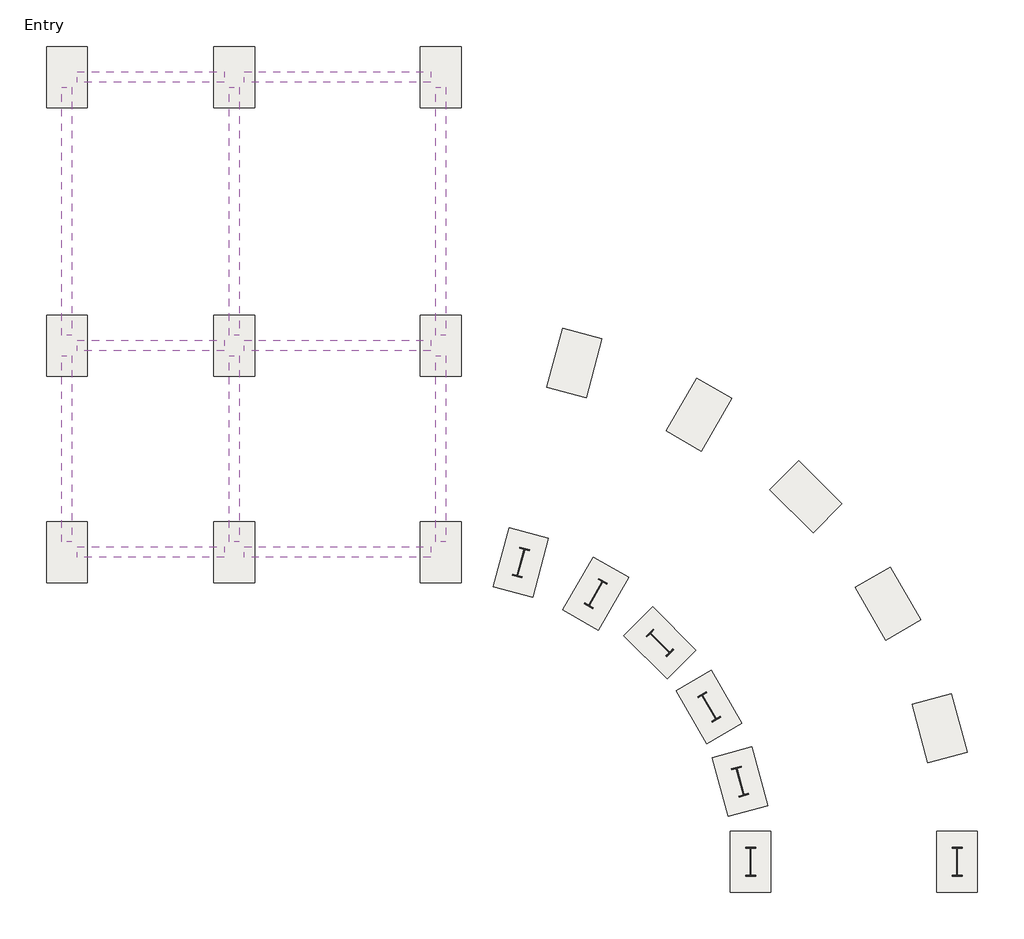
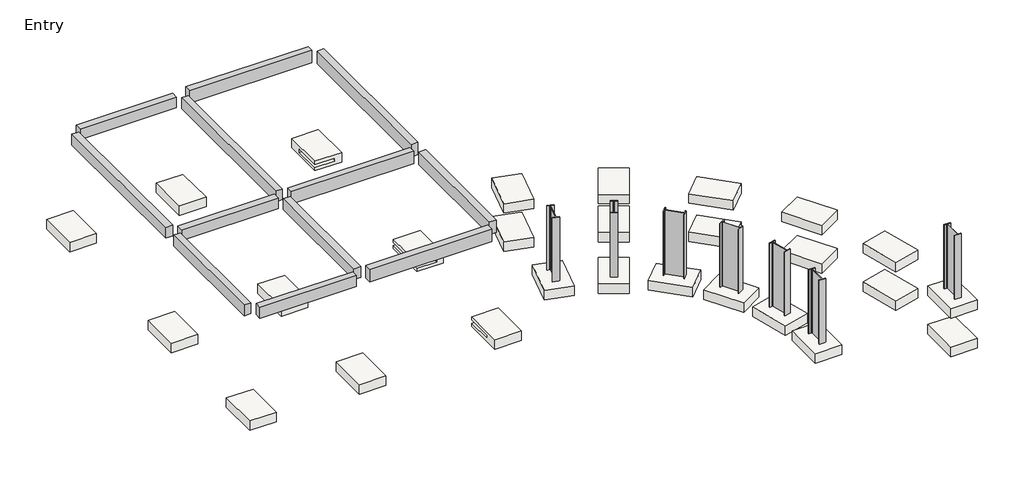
# One storey: 27 slabs, 12 beams, 7 columns.
"""IFC4 building model written with IfcOpenShell, lengths in millimetres."""

import ifcopenshell
import ifcopenshell.guid

model = None  # the IFC model being written
_history = None  # IfcOwnerHistory: only IFC2X3 demands one
_inside = {}  # id of a spatial element -> (the spatial element, [elements in it])
_under = {}  # id of a project, library or spatial element -> (it, [spatial elements below it])
_declared = {}  # id of a project -> (the project, [libraries it declares])
_typed = {}  # id of a type object -> (the type object, [elements of that type])
_made_of = {}  # id of a material, layer set ... -> (it, [elements and type objects made of it])


def new_model(schema):
    """Start an empty IFC model of exactly this schema.

    Asked for "IFC4X3", IfcOpenShell would pick the latest addendum, in which some entities
    have other attributes; the version numbers below select the first issue.
    IFC2X3 requires an IfcOwnerHistory on every rooted entity: one is made here for all.
    """
    global model, _history
    if schema == "IFC4X3":
        model = ifcopenshell.file(schema_version=(4, 3, 0, 0))
    else:
        model = ifcopenshell.file(schema=schema)
    _inside.clear()
    _under.clear()
    _declared.clear()
    _typed.clear()
    _made_of.clear()
    _history = None
    if model.schema == "IFC2X3":
        org = make("IfcOrganization", Name="unknown")
        user = make(
            "IfcPersonAndOrganization",
            ThePerson=make("IfcPerson", FamilyName="unknown"),
            TheOrganization=org,
        )
        app = make(
            "IfcApplication",
            ApplicationDeveloper=org,
            Version="unknown",
            ApplicationFullName="unknown",
            ApplicationIdentifier="unknown",
        )
        _history = make(
            "IfcOwnerHistory",
            OwningUser=user,
            OwningApplication=app,
            ChangeAction="ADDED",
            CreationDate=0,
        )
    return model


def make(cls, **values):
    """One entity of the class cls with the attributes given. An attribute that is None is left unset."""
    return model.create_entity(
        cls, **{name: value for name, value in values.items() if value is not None}
    )


def rooted(cls, **values):
    """An entity with a GlobalId (a new one), such as an element, a storey or a relation."""
    return make(cls, GlobalId=ifcopenshell.guid.new(), OwnerHistory=_history, **values)


def si_unit(unit_type, name, prefix=None):
    """IfcSIUnit, for example si_unit("LENGTHUNIT", "METRE", prefix="MILLI")."""
    return make("IfcSIUnit", UnitType=unit_type, Prefix=prefix, Name=name)


def assignment(units):
    """IfcUnitAssignment: the units of a project."""
    return None if units is None else make("IfcUnitAssignment", Units=units)


def point(xyz):
    """IfcCartesianPoint."""
    return None if xyz is None else make("IfcCartesianPoint", Coordinates=xyz)


def direction(xyz):
    """IfcDirection."""
    return None if xyz is None else make("IfcDirection", DirectionRatios=xyz)


def frame(location, z_axis=None, x_axis=None):
    """IfcAxis2Placement3D, a coordinate frame: its origin and axes. An axis left out is left unset."""
    return make(
        "IfcAxis2Placement3D",
        Location=point(location),
        Axis=direction(z_axis),
        RefDirection=direction(x_axis),
    )


def frame_2d(location, x_axis=None):
    """IfcAxis2Placement2D, a coordinate frame in the plane: its origin and x axis."""
    return make(
        "IfcAxis2Placement2D", Location=point(location), RefDirection=direction(x_axis)
    )


def origin():
    """The frame at (0, 0, 0) with its axes left unset."""
    return frame((0.0, 0.0, 0.0))


def origin_with_axes():
    """The frame at (0, 0, 0) with the z axis (0, 0, 1) and the x axis (1, 0, 0) written out."""
    return frame((0.0, 0.0, 0.0), z_axis=(0.0, 0.0, 1.0), x_axis=(1.0, 0.0, 0.0))


def place(relative_to, where):
    """IfcLocalPlacement: puts the frame where relative to a parent placement (None: the world)."""
    return make(
        "IfcLocalPlacement", PlacementRelTo=relative_to, RelativePlacement=where
    )


def context(
    kind, dimensions, precision=None, world=None, true_north=None, identifier=None
):
    """IfcGeometricRepresentationContext, for example the 3D "Model" context."""
    return make(
        "IfcGeometricRepresentationContext",
        ContextIdentifier=identifier,
        ContextType=kind,
        CoordinateSpaceDimension=dimensions,
        Precision=precision,
        WorldCoordinateSystem=world,
        TrueNorth=true_north,
    )


def project(units=None, contexts=None):
    """IfcProject with its units and contexts."""
    return rooted(
        "IfcProject",
        Name="project",
        RepresentationContexts=contexts,
        UnitsInContext=assignment(units),
    )


def spatial(cls, under=None, at=None, **own):
    """A site, building, storey or space (cls), placed at a placement, below another one or the project."""
    s = rooted(cls, ObjectPlacement=at, **own)
    if under is not None:
        _under.setdefault(under.id(), (under, []))[1].append(s)
    return s


def polyline(points):
    """IfcPolyline through the points."""
    return make("IfcPolyline", Points=[point(p) for p in points])


def circle_curve(where, radius):
    """IfcCircle in the frame where."""
    return make("IfcCircle", Position=where, Radius=radius)


def trimmed(basis, trim1, trim2, sense, master):
    """IfcTrimmedCurve: the piece of a basis curve between two trims."""
    return make(
        "IfcTrimmedCurve",
        BasisCurve=basis,
        Trim1=trim1,
        Trim2=trim2,
        SenseAgreement=sense,
        MasterRepresentation=master,
    )


def segment(curve, same_sense, transition):
    """IfcCompositeCurveSegment."""
    return make(
        "IfcCompositeCurveSegment",
        Transition=transition,
        SameSense=same_sense,
        ParentCurve=curve,
    )


def composite_curve(segments, self_intersect=None):
    """IfcCompositeCurve: segments joined end to end."""
    return make("IfcCompositeCurve", Segments=segments, SelfIntersect=self_intersect)


def outline(outer, holes=None, kind="AREA"):
    """IfcArbitraryClosedProfileDef: a profile drawn as a closed curve; with holes, ...WithVoids."""
    if holes is None:
        return make("IfcArbitraryClosedProfileDef", ProfileType=kind, OuterCurve=outer)
    return make(
        "IfcArbitraryProfileDefWithVoids",
        ProfileType=kind,
        OuterCurve=outer,
        InnerCurves=holes,
    )


def extrude(swept, where, along, depth):
    """IfcExtrudedAreaSolid: the profile swept, set in the frame where, extruded along a direction by depth."""
    return make(
        "IfcExtrudedAreaSolid",
        SweptArea=swept,
        Position=where,
        ExtrudedDirection=direction(along),
        Depth=depth,
    )


def faces_of(points, faces, orient=None, outer=None):
    """IfcFace entities. A face is a list of loops; a loop is a list of indices into points, from 0.

    orient and outer hold one flag for each loop. By default every Orientation is true, the
    first loop of a face is its IfcFaceOuterBound and the others are IfcFaceBound.
    """
    made = []
    for i, loops in enumerate(faces):
        bounds = []
        for j, loop in enumerate(loops):
            is_outer = j == 0 if outer is None else outer[i][j]
            bounds.append(
                make(
                    "IfcFaceOuterBound" if is_outer else "IfcFaceBound",
                    Bound=make("IfcPolyLoop", Polygon=[points[k] for k in loop]),
                    Orientation=True if orient is None else orient[i][j],
                )
            )
        made.append(make("IfcFace", Bounds=bounds))
    return made


def faceted_brep(points, faces, orient=None, outer=None, voids=None):
    """IfcFacetedBrep: a solid bounded by flat faces; with voids (closed shells), ...WithVoids."""
    shared = [point(p) for p in points]
    hull = make("IfcClosedShell", CfsFaces=faces_of(shared, faces, orient, outer))
    if voids is None:
        return make("IfcFacetedBrep", Outer=hull)
    return make(
        "IfcFacetedBrepWithVoids",
        Outer=hull,
        Voids=[
            make(cls, CfsFaces=faces_of(shared, fs, o, b)) for cls, fs, o, b in voids
        ],
    )


def shape(context_of_items, identifier, shape_type, items):
    """IfcShapeRepresentation: the items that make up one representation, for example the "Body"."""
    return make(
        "IfcShapeRepresentation",
        ContextOfItems=context_of_items,
        RepresentationIdentifier=identifier,
        RepresentationType=shape_type,
        Items=items,
    )


def source(mapping_origin, context_of_items, identifier, shape_type, items):
    """IfcRepresentationMap: a shape defined once, which mapped items show again and again."""
    return make(
        "IfcRepresentationMap",
        MappingOrigin=mapping_origin,
        MappedRepresentation=shape(context_of_items, identifier, shape_type, items),
    )


def transform(
    local_origin,
    x_axis=None,
    y_axis=None,
    z_axis=None,
    scale=None,
    scale2=None,
    scale3=None,
    uniform=True,
):
    """IfcCartesianTransformationOperator3D, or its non-uniform kind. x_axis, y_axis, z_axis: its Axis1, 2, 3."""
    if uniform:
        return make(
            "IfcCartesianTransformationOperator3D",
            Axis1=direction(x_axis),
            Axis2=direction(y_axis),
            LocalOrigin=point(local_origin),
            Scale=scale,
            Axis3=direction(z_axis),
        )
    return make(
        "IfcCartesianTransformationOperator3DnonUniform",
        Axis1=direction(x_axis),
        Axis2=direction(y_axis),
        LocalOrigin=point(local_origin),
        Scale=scale,
        Axis3=direction(z_axis),
        Scale2=scale2,
        Scale3=scale3,
    )


def mapped(mapping_source, mapping_target):
    """IfcMappedItem: shows the shape of a source again, moved by a transform."""
    return make(
        "IfcMappedItem", MappingSource=mapping_source, MappingTarget=mapping_target
    )


def made_of(thing, what):
    """Note that an element or type object is made of a material, layer set ...; save() writes the relation."""
    if what is not None:
        _made_of.setdefault(what.id(), (what, []))[1].append(thing)
    return thing


def element(
    cls,
    number,
    at=None,
    inside=None,
    cuts=None,
    type_object=None,
    material=None,
    context=None,
    identifier="Body",
    shape_type=None,
    held_by="IfcProductDefinitionShape",
    body=None,
    shapes=None,
    **own,
):
    """One element of the class cls, such as IfcWall. Its Tag is "e" and its number.

    at: its placement. inside: the storey or other place that contains it. cuts: it is an
    opening in that element (IfcRelVoidsElement). A single representation is given by context,
    identifier, shape_type and body (its items); several are given by shapes. held_by: the class
    of the entity that holds the representations. save() writes the other relations.
    """
    e = rooted(cls, Tag="e%d" % number, ObjectPlacement=at, **own)
    if body is not None:
        shapes = [shape(context, identifier, shape_type, body)]
    if shapes is not None:
        e.Representation = make(held_by, Representations=shapes)
    if inside is not None:
        _inside.setdefault(inside.id(), (inside, []))[1].append(e)
    if cuts is not None:
        rooted(
            "IfcRelVoidsElement", RelatingBuildingElement=cuts, RelatedOpeningElement=e
        )
    if type_object is not None:
        _typed.setdefault(type_object.id(), (type_object, []))[1].append(e)
    return made_of(e, material)


def aggregate(whole, parts):
    """IfcRelAggregates: a whole, such as a stair, and the parts it consists of."""
    return rooted("IfcRelAggregates", RelatingObject=whole, RelatedObjects=parts)


def save(model, path):
    """Write the relations noted so far, then the file.

    IfcRelAggregates (storeys below a building ...), IfcRelContainedInSpatialStructure (elements
    in a storey), IfcRelDefinesByType, IfcRelAssociatesMaterial and IfcRelDeclares: one each for
    every whole, place, type object, material and project.
    """
    for whole, parts in _under.values():
        aggregate(whole, parts)
    for where, things in _inside.values():
        rooted(
            "IfcRelContainedInSpatialStructure",
            RelatedElements=things,
            RelatingStructure=where,
        )
    for kind, things in _typed.values():
        rooted("IfcRelDefinesByType", RelatedObjects=things, RelatingType=kind)
    for what, things in _made_of.values():
        rooted("IfcRelAssociatesMaterial", RelatedObjects=things, RelatingMaterial=what)
    for by, libraries in _declared.values():
        rooted("IfcRelDeclares", RelatingContext=by, RelatedDefinitions=libraries)
    model.write(path)


def w840x251_1148a0b8(model_context):
    return source(origin(), model_context, "Body", "SweptSolid", [
        extrude(outline(composite_curve([segment(polyline([(146.0, 429.5), (146.0, 398.5), (31.5, 398.5)]), True, "CONTINUOUS"), segment(trimmed(circle_curve(frame_2d((31.5, 375.5)), 23.0), [point((31.5, 398.5))], [point((8.5, 375.5))], True, "CARTESIAN"), True, "CONTINUOUS"), segment(polyline([(8.5, 375.5), (8.5, -375.5)]), True, "CONTINUOUS"), segment(trimmed(circle_curve(frame_2d((31.5, -375.5)), 23.0), [point((8.5, -375.5))], [point((31.5, -398.5))], True, "CARTESIAN"), True, "CONTINUOUS"), segment(polyline([(31.5, -398.5), (146.0, -398.5), (146.0, -429.5), (-146.0, -429.5), (-146.0, -398.5), (-31.5, -398.5)]), True, "CONTINUOUS"), segment(trimmed(circle_curve(frame_2d((-31.5, -375.5)), 23.0), [point((-31.5, -398.5))], [point((-8.5, -375.5))], True, "CARTESIAN"), True, "CONTINUOUS"), segment(polyline([(-8.5, -375.5), (-8.5, 375.5)]), True, "CONTINUOUS"), segment(trimmed(circle_curve(frame_2d((-31.5, 375.5)), 23.0), [point((-8.5, 375.5))], [point((-31.5, 398.5))], True, "CARTESIAN"), True, "CONTINUOUS"), segment(polyline([(-31.5, 398.5), (-146.0, 398.5), (-146.0, 429.5), (146.0, 429.5)]), True, "CONTINUOUS")], self_intersect=False)), origin_with_axes(), (0.0, 0.0, 1.0), 3048.0),
    ])


def m_footing_rectangular_1800_x_1200_x_450mm_16ba7ea5(model_context):
    return source(origin(), model_context, "Body", "SweptSolid", [
        extrude(outline(polyline([(600.0, 900.0), (600.0, -900.0), (-600.0, -900.0), (-600.0, 900.0), (600.0, 900.0)])), frame((0.0, 0.0, -450.0), z_axis=(0.0, 0.0, 1.0), x_axis=(1.0, 0.0, 0.0)), (0.0, 0.0, 1.0), 450.0),
    ])


model = new_model("IFC4")

# Units and contexts
model_context = context("Model", 3, world=origin())
ifc_project = project(units=[si_unit("LENGTHUNIT", "METRE", prefix="MILLI")], contexts=[model_context])

# Site, building, storey
site = spatial("IfcSite", under=ifc_project)
building = spatial("IfcBuilding", under=site)
storey = spatial("IfcBuildingStorey", under=building, Name="Entry", Elevation=0.0)

# Beams
placement = place(None, origin())
element("IfcBeam", 1, ObjectType="M_Concrete-Rectangular Beam : 300 x 600mm", at=placement, inside=storey, context=model_context, shape_type="SweptSolid", body=[
    extrude(outline(polyline([(-16304.9035319, 4112.1636035), (-16304.9035319, 4412.1636035), (-10808.9035319, 4412.1636035), (-10808.9035319, 4112.1636035), (-16304.9035319, 4112.1636035)])), frame((0.0, 0.0, 2448.0), z_axis=(0.0, 0.0, 1.0), x_axis=(1.0, 0.0, 0.0)), (0.0, 0.0, 1.0), 600.0),
])
element("IfcBeam", 2, ObjectType="M_Concrete-Rectangular Beam : 300 x 600mm", at=placement, inside=storey, context=model_context, shape_type="SweptSolid", body=[
    extrude(outline(polyline([(-21244.300634, 4112.1636035), (-21244.300634, 4412.1636035), (-16904.9035319, 4412.1636035), (-16904.9035319, 4112.1636035), (-21244.300634, 4112.1636035)])), frame((0.0, 0.0, 2448.0), z_axis=(0.0, 0.0, 1.0), x_axis=(1.0, 0.0, 0.0)), (0.0, 0.0, 1.0), 510.0),
])
element("IfcBeam", 3, ObjectType="M_Concrete-Rectangular Beam : 300 x 600mm", at=placement, inside=storey, context=model_context, shape_type="SweptSolid", body=[
    extrude(outline(polyline([(-16304.9035319, -3812.8363965), (-16304.9035319, -3512.8363965), (-10808.9035319, -3512.8363965), (-10808.9035319, -3812.8363965), (-16304.9035319, -3812.8363965)])), frame((0.0, 0.0, 2448.0), z_axis=(0.0, 0.0, 1.0), x_axis=(1.0, 0.0, 0.0)), (0.0, 0.0, 1.0), 600.0),
])
element("IfcBeam", 4, ObjectType="M_Concrete-Rectangular Beam : 300 x 600mm", at=placement, inside=storey, context=model_context, shape_type="SweptSolid", body=[
    extrude(outline(polyline([(-21244.300634, -3812.8363965), (-21244.300634, -3512.8363965), (-16904.9035319, -3512.8363965), (-16904.9035319, -3812.8363965), (-21244.300634, -3812.8363965)])), frame((0.0, 0.0, 2448.0), z_axis=(0.0, 0.0, 1.0), x_axis=(1.0, 0.0, 0.0)), (0.0, 0.0, 1.0), 510.0),
])
element("IfcBeam", 5, ObjectType="M_Concrete-Rectangular Beam : 300 x 600mm", at=placement, inside=storey, context=model_context, shape_type="SweptSolid", body=[
    extrude(outline(polyline([(-16304.9035319, -9908.8363965), (-16304.9035319, -9608.8363965), (-10808.9035319, -9608.8363965), (-10808.9035319, -9908.8363965), (-16304.9035319, -9908.8363965)])), frame((0.0, 0.0, 2448.0), z_axis=(0.0, 0.0, 1.0), x_axis=(1.0, 0.0, 0.0)), (0.0, 0.0, 1.0), 600.0),
])
element("IfcBeam", 6, ObjectType="M_Concrete-Rectangular Beam : 300 x 600mm", at=placement, inside=storey, context=model_context, shape_type="SweptSolid", body=[
    extrude(outline(polyline([(-21244.300634, -9908.8363965), (-21244.300634, -9608.8363965), (-16904.9035319, -9608.8363965), (-16904.9035319, -9908.8363965), (-21244.300634, -9908.8363965)])), frame((0.0, 0.0, 2448.0), z_axis=(0.0, 0.0, 1.0), x_axis=(1.0, 0.0, 0.0)), (0.0, 0.0, 1.0), 510.0),
])
element("IfcBeam", 7, ObjectType="M_Concrete-Rectangular Beam : 300 x 600mm", at=placement, inside=storey, context=model_context, shape_type="SweptSolid", body=[
    extrude(outline(polyline([(-21394.300634, -3362.8363965), (-21694.300634, -3362.8363965), (-21694.300634, 3962.1636035), (-21394.300634, 3962.1636035), (-21394.300634, -3362.8363965)])), frame((0.0, 0.0, 2448.0), z_axis=(0.0, 0.0, 1.0), x_axis=(1.0, 0.0, 0.0)), (0.0, 0.0, 1.0), 510.0),
])
element("IfcBeam", 8, ObjectType="M_Concrete-Rectangular Beam : 300 x 600mm", at=placement, inside=storey, context=model_context, shape_type="SweptSolid", body=[
    extrude(outline(polyline([(-21394.300634, -9458.8363965), (-21694.300634, -9458.8363965), (-21694.300634, -3962.8363965), (-21394.300634, -3962.8363965), (-21394.300634, -9458.8363965)])), frame((0.0, 0.0, 2448.0), z_axis=(0.0, 0.0, 1.0), x_axis=(1.0, 0.0, 0.0)), (0.0, 0.0, 1.0), 510.0),
])
element("IfcBeam", 9, ObjectType="M_Concrete-Rectangular Beam : 300 x 600mm", at=placement, inside=storey, context=model_context, shape_type="SweptSolid", body=[
    extrude(outline(polyline([(-16454.9035319, -9458.8363965), (-16754.9035319, -9458.8363965), (-16754.9035319, -3962.8363965), (-16454.9035319, -3962.8363965), (-16454.9035319, -9458.8363965)])), frame((0.0, 0.0, 2448.0), z_axis=(0.0, 0.0, 1.0), x_axis=(1.0, 0.0, 0.0)), (0.0, 0.0, 1.0), 510.0),
])
element("IfcBeam", 10, ObjectType="M_Concrete-Rectangular Beam : 300 x 600mm", at=placement, inside=storey, context=model_context, shape_type="SweptSolid", body=[
    extrude(outline(polyline([(-16454.9035319, -3362.8363965), (-16754.9035319, -3362.8363965), (-16754.9035319, 3962.1636035), (-16454.9035319, 3962.1636035), (-16454.9035319, -3362.8363965)])), frame((0.0, 0.0, 2448.0), z_axis=(0.0, 0.0, 1.0), x_axis=(1.0, 0.0, 0.0)), (0.0, 0.0, 1.0), 510.0),
])
element("IfcBeam", 11, ObjectType="M_Concrete-Rectangular Beam : 300 x 600mm", at=placement, inside=storey, context=model_context, shape_type="SweptSolid", body=[
    extrude(outline(polyline([(-10358.9035319, -9458.8363965), (-10658.9035319, -9458.8363965), (-10658.9035319, -3962.8363965), (-10358.9035319, -3962.8363965), (-10358.9035319, -9458.8363965)])), frame((0.0, 0.0, 2448.0), z_axis=(0.0, 0.0, 1.0), x_axis=(1.0, 0.0, 0.0)), (0.0, 0.0, 1.0), 600.0),
])
element("IfcBeam", 12, ObjectType="M_Concrete-Rectangular Beam : 300 x 600mm", at=placement, inside=storey, context=model_context, shape_type="SweptSolid", body=[
    extrude(outline(polyline([(-10358.9035319, -3362.8363965), (-10658.9035319, -3362.8363965), (-10658.9035319, 3962.1636035), (-10358.9035319, 3962.1636035), (-10358.9035319, -3362.8363965)])), frame((0.0, 0.0, 2448.0), z_axis=(0.0, 0.0, 1.0), x_axis=(1.0, 0.0, 0.0)), (0.0, 0.0, 1.0), 600.0),
])

# Columns
w840x251_shape = w840x251_1148a0b8(model_context)
element("IfcColumn", 13, ObjectType="M_W-Wide Flange-Column : W840X251", at=placement, inside=storey, context=model_context, shape_type="MappedRepresentation", body=[
    mapped(w840x251_shape, transform((-1676.4777763, -16536.1950481, 0.0), x_axis=(-0.9659258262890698, -0.25881904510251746, 0.0), y_axis=(0.25881904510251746, -0.9659258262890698, 0.0), z_axis=(0.0, 0.0, 1.0))),
])
element("IfcColumn", 14, ObjectType="M_W-Wide Flange-Column : W840X251", at=placement, inside=storey, context=model_context, shape_type="MappedRepresentation", body=[
    mapped(w840x251_shape, transform((-2589.9672396, -14330.8363965, 0.0), x_axis=(-0.8660254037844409, -0.49999999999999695, 0.0), y_axis=(0.49999999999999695, -0.8660254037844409, 0.0), z_axis=(0.0, 0.0, 1.0))),
])
element("IfcColumn", 15, ObjectType="M_W-Wide Flange-Column : W840X251", at=placement, inside=storey, context=model_context, shape_type="MappedRepresentation", body=[
    mapped(w840x251_shape, transform((-4043.1191247, -12437.0519893, 0.0), x_axis=(0.7071067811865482, 0.7071067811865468, 0.0), y_axis=(-0.7071067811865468, 0.7071067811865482, 0.0), z_axis=(0.0, 0.0, 1.0))),
])
element("IfcColumn", 16, ObjectType="M_W-Wide Flange-Column : W840X251", at=placement, inside=storey, context=model_context, shape_type="MappedRepresentation", body=[
    mapped(w840x251_shape, transform((-5936.9035319, -10983.9001043, 0.0), x_axis=(0.8660254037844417, -0.49999999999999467, 0.0), y_axis=(0.49999999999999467, 0.8660254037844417, 0.0), z_axis=(0.0, 0.0, 1.0))),
])
element("IfcColumn", 17, ObjectType="M_W-Wide Flange-Column : W840X251", at=placement, inside=storey, context=model_context, shape_type="MappedRepresentation", body=[
    mapped(w840x251_shape, transform((-8142.2621834, -10070.4106409, 0.0), x_axis=(0.9659258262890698, -0.25881904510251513, 0.0), y_axis=(0.25881904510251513, 0.9659258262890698, 0.0), z_axis=(0.0, 0.0, 1.0))),
])
element("IfcColumn", 18, ObjectType="M_W-Wide Flange-Column : W840X251", at=placement, inside=storey, context=model_context, shape_type="MappedRepresentation", body=[
    mapped(w840x251_shape, transform((4731.0964681, -18902.8363965, 0.0), x_axis=(1.0, 0.0, 0.0), y_axis=(0.0, 1.0, 0.0), z_axis=(0.0, 0.0, 1.0))),
])
element("IfcColumn", 19, ObjectType="M_W-Wide Flange-Column : W840X251", at=placement, inside=storey, context=model_context, shape_type="MappedRepresentation", body=[
    mapped(w840x251_shape, transform((-1364.9035319, -18902.8363965, 0.0), x_axis=(1.0, 0.0, 0.0), y_axis=(0.0, 1.0, 0.0), z_axis=(0.0, 0.0, 1.0))),
])

# Slabs
element("IfcSlab", 20, ObjectType="M_Footing-Rectangular : 1800 x 1200 x 450mm", at=placement, inside=storey, context=model_context, shape_type="Brep", body=[
    faceted_brep([(-11108.9035319, 3362.1636035, -1677.0), (-9908.9035319, 3362.1636035, -1677.0), (-9908.9035319, 5162.1636035, -1677.0), (-11108.9035319, 5162.1636035, -1677.0), (-11108.9035319, 3362.1636035, -2127.0), (-11108.9035319, 5162.1636035, -2127.0), (-9908.9035319, 5162.1636035, -2127.0), (-9908.9035319, 3362.1636035, -2127.0), (-11108.9035319, 3362.1636035, -1829.0), (-10208.9035319, 3362.1636035, -1829.0), (-10208.9035319, 3362.1636035, -1979.0), (-11108.9035319, 3362.1636035, -1979.0), (-11108.9035319, 4562.1636035, -1979.0), (-11108.9035319, 4562.1636035, -1829.0), (-10208.9035319, 4562.1636035, -1979.0), (-10208.9035319, 4562.1636035, -1829.0)], [[[0, 1, 2, 3]], [[4, 5, 6, 7]], [[1, 0, 8, 9, 10, 11, 4, 7]], [[2, 1, 7, 6]], [[3, 2, 6, 5]], [[0, 3, 5, 4, 11, 12, 13, 8]], [[14, 12, 11, 10]], [[15, 9, 8, 13]], [[15, 14, 10, 9]], [[14, 15, 13, 12]]]),
])
element("IfcSlab", 21, ObjectType="M_Footing-Rectangular : 1800 x 1200 x 450mm", at=placement, inside=storey, context=model_context, shape_type="SweptSolid", body=[
    extrude(outline(polyline([(-1677.0, -9908.9035319), (-1677.0, -11108.9035319), (-1829.0, -11108.9035319), (-1829.0, -10208.9035319), (-1979.0, -10208.9035319), (-1979.0, -11108.9035319), (-2127.0, -11108.9035319), (-2127.0, -9908.9035319), (-1677.0, -9908.9035319)])), frame((0.0, -4562.8363965, 0.0), z_axis=(0.0, 1.0, 0.0), x_axis=(0.0, 0.0, 1.0)), (0.0, 0.0, 1.0), 1800.0),
])
element("IfcSlab", 22, ObjectType="M_Footing-Rectangular : 1800 x 1200 x 450mm", at=placement, inside=storey, context=model_context, shape_type="Brep", body=[
    faceted_brep([(-9908.9035319, -8858.8363965, -1677.0), (-11108.9035319, -8858.8363965, -1677.0), (-11108.9035319, -10658.8363965, -1677.0), (-9908.9035319, -10658.8363965, -1677.0), (-9908.9035319, -8858.8363965, -2127.0), (-9908.9035319, -10658.8363965, -2127.0), (-11108.9035319, -10658.8363965, -2127.0), (-11108.9035319, -8858.8363965, -2127.0), (-11108.9035319, -8858.8363965, -1979.0), (-10208.9035319, -8858.8363965, -1979.0), (-10208.9035319, -8858.8363965, -1829.0), (-11108.9035319, -8858.8363965, -1829.0), (-11108.9035319, -10058.8363965, -1829.0), (-11108.9035319, -10058.8363965, -1979.0), (-10208.9035319, -10058.8363965, -1979.0), (-10208.9035319, -10058.8363965, -1829.0)], [[[0, 1, 2, 3]], [[4, 5, 6, 7]], [[1, 0, 4, 7, 8, 9, 10, 11]], [[2, 1, 11, 12, 13, 8, 7, 6]], [[3, 2, 6, 5]], [[0, 3, 5, 4]], [[13, 14, 9, 8]], [[10, 15, 12, 11]], [[14, 15, 10, 9]], [[15, 14, 13, 12]]]),
])
m_footing_rectangular_1800_x_1200_x_450mm_shape = m_footing_rectangular_1800_x_1200_x_450mm_16ba7ea5(model_context)
element("IfcSlab", 23, ObjectType="M_Footing-Rectangular : 1800 x 1200 x 450mm", at=placement, inside=storey, context=model_context, shape_type="MappedRepresentation", body=[
    mapped(m_footing_rectangular_1800_x_1200_x_450mm_shape, transform((4731.0964681, -18902.8363965, -1829.0), x_axis=(1.0, 0.0, 0.0), y_axis=(0.0, 1.0, 0.0), z_axis=(0.0, 0.0, 1.0))),
])
element("IfcSlab", 24, ObjectType="M_Footing-Rectangular : 1800 x 1200 x 450mm", at=placement, inside=storey, context=model_context, shape_type="MappedRepresentation", body=[
    mapped(m_footing_rectangular_1800_x_1200_x_450mm_shape, transform((4211.8060608, -14958.4341491, -1829.0), x_axis=(0.9659258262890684, 0.25881904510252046, 0.0), y_axis=(-0.25881904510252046, 0.9659258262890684, 0.0), z_axis=(0.0, 0.0, 1.0))),
])
element("IfcSlab", 25, ObjectType="M_Footing-Rectangular : 1800 x 1200 x 450mm", at=placement, inside=storey, context=model_context, shape_type="MappedRepresentation", body=[
    mapped(m_footing_rectangular_1800_x_1200_x_450mm_shape, transform((2689.3236218, -11282.8363965, -1829.0), x_axis=(0.8660254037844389, 0.4999999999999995, 0.0), y_axis=(-0.4999999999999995, 0.8660254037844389, 0.0), z_axis=(0.0, 0.0, 1.0))),
])
element("IfcSlab", 26, ObjectType="M_Footing-Rectangular : 1800 x 1200 x 450mm", at=placement, inside=storey, context=model_context, shape_type="MappedRepresentation", body=[
    mapped(m_footing_rectangular_1800_x_1200_x_450mm_shape, transform((267.4038134, -8126.5290512, -1829.0), x_axis=(0.7071067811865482, 0.7071067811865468, 0.0), y_axis=(-0.7071067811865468, 0.7071067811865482, 0.0), z_axis=(0.0, 0.0, 1.0))),
])
element("IfcSlab", 27, ObjectType="M_Footing-Rectangular : 1800 x 1200 x 450mm", at=placement, inside=storey, context=model_context, shape_type="MappedRepresentation", body=[
    mapped(m_footing_rectangular_1800_x_1200_x_450mm_shape, transform((-2888.9035319, -5704.6092428, -1829.0), x_axis=(0.8660254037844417, -0.49999999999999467, 0.0), y_axis=(0.49999999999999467, 0.8660254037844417, 0.0), z_axis=(0.0, 0.0, 1.0))),
])
element("IfcSlab", 28, ObjectType="M_Footing-Rectangular : 1800 x 1200 x 450mm", at=placement, inside=storey, context=model_context, shape_type="MappedRepresentation", body=[
    mapped(m_footing_rectangular_1800_x_1200_x_450mm_shape, transform((-6564.5012845, -4182.1268039, -1829.0), x_axis=(0.9659258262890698, -0.25881904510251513, 0.0), y_axis=(0.25881904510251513, 0.9659258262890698, 0.0), z_axis=(0.0, 0.0, 1.0))),
])
element("IfcSlab", 29, ObjectType="M_Footing-Rectangular : 1800 x 1200 x 450mm", at=placement, inside=storey, context=model_context, shape_type="MappedRepresentation", body=[
    mapped(m_footing_rectangular_1800_x_1200_x_450mm_shape, transform((-1676.4777763, -16536.1950481, 0.0), x_axis=(-0.9659258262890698, -0.25881904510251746, 0.0), y_axis=(0.25881904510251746, -0.9659258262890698, 0.0), z_axis=(0.0, 0.0, 1.0))),
])
element("IfcSlab", 30, ObjectType="M_Footing-Rectangular : 1800 x 1200 x 450mm", at=placement, inside=storey, context=model_context, shape_type="MappedRepresentation", body=[
    mapped(m_footing_rectangular_1800_x_1200_x_450mm_shape, transform((-2589.9672396, -14330.8363965, 0.0), x_axis=(-0.8660254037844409, -0.49999999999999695, 0.0), y_axis=(0.49999999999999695, -0.8660254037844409, 0.0), z_axis=(0.0, 0.0, 1.0))),
])
element("IfcSlab", 31, ObjectType="M_Footing-Rectangular : 1800 x 1200 x 450mm", at=placement, inside=storey, context=model_context, shape_type="MappedRepresentation", body=[
    mapped(m_footing_rectangular_1800_x_1200_x_450mm_shape, transform((-4043.1191247, -12437.0519893, 0.0), x_axis=(0.7071067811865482, 0.7071067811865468, 0.0), y_axis=(-0.7071067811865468, 0.7071067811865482, 0.0), z_axis=(0.0, 0.0, 1.0))),
])
element("IfcSlab", 32, ObjectType="M_Footing-Rectangular : 1800 x 1200 x 450mm", at=placement, inside=storey, context=model_context, shape_type="MappedRepresentation", body=[
    mapped(m_footing_rectangular_1800_x_1200_x_450mm_shape, transform((-5936.9035319, -10983.9001043, 0.0), x_axis=(0.8660254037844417, -0.49999999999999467, 0.0), y_axis=(0.49999999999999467, 0.8660254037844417, 0.0), z_axis=(0.0, 0.0, 1.0))),
])
element("IfcSlab", 33, ObjectType="M_Footing-Rectangular : 1800 x 1200 x 450mm", at=placement, inside=storey, context=model_context, shape_type="MappedRepresentation", body=[
    mapped(m_footing_rectangular_1800_x_1200_x_450mm_shape, transform((-8142.2621834, -10070.4106409, 0.0), x_axis=(0.9659258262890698, -0.25881904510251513, 0.0), y_axis=(0.25881904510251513, 0.9659258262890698, 0.0), z_axis=(0.0, 0.0, 1.0))),
])
element("IfcSlab", 34, ObjectType="M_Footing-Rectangular : 1800 x 1200 x 450mm", at=placement, inside=storey, context=model_context, shape_type="MappedRepresentation", body=[
    mapped(m_footing_rectangular_1800_x_1200_x_450mm_shape, transform((4211.8060608, -14958.4341491, 0.0), x_axis=(-0.9659258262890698, -0.25881904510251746, 0.0), y_axis=(0.25881904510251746, -0.9659258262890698, 0.0), z_axis=(0.0, 0.0, 1.0))),
])
element("IfcSlab", 35, ObjectType="M_Footing-Rectangular : 1800 x 1200 x 450mm", at=placement, inside=storey, context=model_context, shape_type="MappedRepresentation", body=[
    mapped(m_footing_rectangular_1800_x_1200_x_450mm_shape, transform((2689.3236218, -11282.8363965, 0.0), x_axis=(-0.8660254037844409, -0.49999999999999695, 0.0), y_axis=(0.49999999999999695, -0.8660254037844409, 0.0), z_axis=(0.0, 0.0, 1.0))),
])
element("IfcSlab", 36, ObjectType="M_Footing-Rectangular : 1800 x 1200 x 450mm", at=placement, inside=storey, context=model_context, shape_type="MappedRepresentation", body=[
    mapped(m_footing_rectangular_1800_x_1200_x_450mm_shape, transform((267.4038134, -8126.5290512, 0.0), x_axis=(0.7071067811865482, 0.7071067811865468, 0.0), y_axis=(-0.7071067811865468, 0.7071067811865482, 0.0), z_axis=(0.0, 0.0, 1.0))),
])
element("IfcSlab", 37, ObjectType="M_Footing-Rectangular : 1800 x 1200 x 450mm", at=placement, inside=storey, context=model_context, shape_type="MappedRepresentation", body=[
    mapped(m_footing_rectangular_1800_x_1200_x_450mm_shape, transform((-2888.9035319, -5704.6092428, 0.0), x_axis=(0.8660254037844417, -0.49999999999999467, 0.0), y_axis=(0.49999999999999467, 0.8660254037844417, 0.0), z_axis=(0.0, 0.0, 1.0))),
])
element("IfcSlab", 38, ObjectType="M_Footing-Rectangular : 1800 x 1200 x 450mm", at=placement, inside=storey, context=model_context, shape_type="MappedRepresentation", body=[
    mapped(m_footing_rectangular_1800_x_1200_x_450mm_shape, transform((-6564.5012845, -4182.1268039, 0.0), x_axis=(0.9659258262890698, -0.25881904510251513, 0.0), y_axis=(0.25881904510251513, 0.9659258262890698, 0.0), z_axis=(0.0, 0.0, 1.0))),
])
element("IfcSlab", 39, ObjectType="M_Footing-Rectangular : 1800 x 1200 x 450mm", at=placement, inside=storey, context=model_context, shape_type="MappedRepresentation", body=[
    mapped(m_footing_rectangular_1800_x_1200_x_450mm_shape, transform((4731.0964681, -18902.8363965, 0.0), x_axis=(1.0, 0.0, 0.0), y_axis=(0.0, 1.0, 0.0), z_axis=(0.0, 0.0, 1.0))),
])
element("IfcSlab", 40, ObjectType="M_Footing-Rectangular : 1800 x 1200 x 450mm", at=placement, inside=storey, context=model_context, shape_type="MappedRepresentation", body=[
    mapped(m_footing_rectangular_1800_x_1200_x_450mm_shape, transform((-1364.9035319, -18902.8363965, 0.0), x_axis=(1.0, 0.0, 0.0), y_axis=(0.0, 1.0, 0.0), z_axis=(0.0, 0.0, 1.0))),
])
element("IfcSlab", 41, ObjectType="M_Footing-Rectangular : 1800 x 1200 x 450mm", at=placement, inside=storey, context=model_context, shape_type="MappedRepresentation", body=[
    mapped(m_footing_rectangular_1800_x_1200_x_450mm_shape, transform((-21544.300634, -9758.8363965, -1677.0), x_axis=(-1.0, 0.0, 0.0), y_axis=(0.0, -1.0, 0.0), z_axis=(0.0, 0.0, 1.0))),
])
element("IfcSlab", 42, ObjectType="M_Footing-Rectangular : 1800 x 1200 x 450mm", at=placement, inside=storey, context=model_context, shape_type="MappedRepresentation", body=[
    mapped(m_footing_rectangular_1800_x_1200_x_450mm_shape, transform((-21544.300634, -3662.8363965, -1677.0), x_axis=(-1.0, 0.0, 0.0), y_axis=(0.0, -1.0, 0.0), z_axis=(0.0, 0.0, 1.0))),
])
element("IfcSlab", 43, ObjectType="M_Footing-Rectangular : 1800 x 1200 x 450mm", at=placement, inside=storey, context=model_context, shape_type="MappedRepresentation", body=[
    mapped(m_footing_rectangular_1800_x_1200_x_450mm_shape, transform((-21544.300634, 4262.1636035, -1677.0), x_axis=(-1.0, 0.0, 0.0), y_axis=(0.0, -1.0, 0.0), z_axis=(0.0, 0.0, 1.0))),
])
element("IfcSlab", 44, ObjectType="M_Footing-Rectangular : 1800 x 1200 x 450mm", at=placement, inside=storey, context=model_context, shape_type="MappedRepresentation", body=[
    mapped(m_footing_rectangular_1800_x_1200_x_450mm_shape, transform((-16604.9035319, -9758.8363965, -1677.0), x_axis=(-1.0, 0.0, 0.0), y_axis=(0.0, -1.0, 0.0), z_axis=(0.0, 0.0, 1.0))),
])
element("IfcSlab", 45, ObjectType="M_Footing-Rectangular : 1800 x 1200 x 450mm", at=placement, inside=storey, context=model_context, shape_type="MappedRepresentation", body=[
    mapped(m_footing_rectangular_1800_x_1200_x_450mm_shape, transform((-16604.9035319, -3662.8363965, -1677.0), x_axis=(-1.0, 0.0, 0.0), y_axis=(0.0, -1.0, 0.0), z_axis=(0.0, 0.0, 1.0))),
])
element("IfcSlab", 46, ObjectType="M_Footing-Rectangular : 1800 x 1200 x 450mm", at=placement, inside=storey, context=model_context, shape_type="MappedRepresentation", body=[
    mapped(m_footing_rectangular_1800_x_1200_x_450mm_shape, transform((-16604.9035319, 4262.1636035, -1677.0), x_axis=(-1.0, 0.0, 0.0), y_axis=(0.0, -1.0, 0.0), z_axis=(0.0, 0.0, 1.0))),
])

save(model, "model.ifc")
